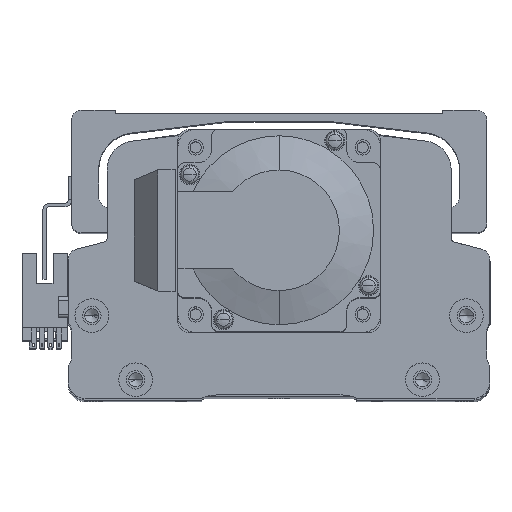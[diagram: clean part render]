
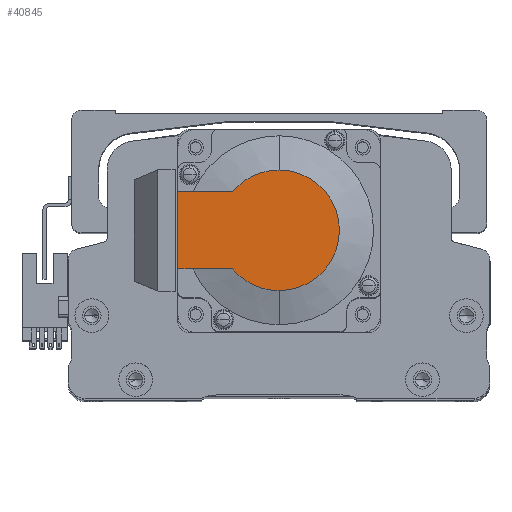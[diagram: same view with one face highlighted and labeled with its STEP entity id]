
A CAD part, top view. The second image highlights one B-rep face of the part: STEP entity #40845.
In plain terms, the highlighted planar face has unit normal (0, 0, 1) as drawn and (-1, 0, 0) by its records, which use the part's own axes.
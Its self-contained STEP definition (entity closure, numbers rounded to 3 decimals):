
#1666 = ORIENTED_EDGE ( 'NONE', *, *, #15408, .T. ) ;
#1883 = DIRECTION ( 'NONE',  ( 0., 0., -1. ) ) ;
#3121 = FACE_OUTER_BOUND ( 'NONE', #21239, .T. ) ;
#4443 = DIRECTION ( 'NONE',  ( -1., 0., 0. ) ) ;
#4469 = AXIS2_PLACEMENT_3D ( 'NONE', #29182, #4443, #33311 ) ;
#6772 = ORIENTED_EDGE ( 'NONE', *, *, #22242, .F. ) ;
#7822 = CARTESIAN_POINT ( 'NONE',  ( -118.5, 0., 0. ) ) ;
#8183 = EDGE_CURVE ( 'NONE', #45705, #31785, #19655, .T. ) ;
#9536 = CARTESIAN_POINT ( 'NONE',  ( -118.5, 13.735, 11.45 ) ) ;
#10730 = ORIENTED_EDGE ( 'NONE', *, *, #24811, .T. ) ;
#11619 = AXIS2_PLACEMENT_3D ( 'NONE', #7822, #36649, #11991 ) ;
#11991 = DIRECTION ( 'NONE',  ( 0., 0., -1. ) ) ;
#12180 = CARTESIAN_POINT ( 'NONE',  ( -118.5, 30., -11.45 ) ) ;
#12434 = CARTESIAN_POINT ( 'NONE',  ( -118.5, 30., 25. ) ) ;
#13423 = ORIENTED_EDGE ( 'NONE', *, *, #52760, .T. ) ;
#13528 = CARTESIAN_POINT ( 'NONE',  ( -118.5, 13.735, -11.45 ) ) ;
#13822 = CARTESIAN_POINT ( 'NONE',  ( -118.5, 30., 11.45 ) ) ;
#14484 = CARTESIAN_POINT ( 'NONE',  ( -118.5, 0., 0. ) ) ;
#15408 = EDGE_CURVE ( 'NONE', #19360, #45705, #50749, .T. ) ;
#15792 = VECTOR ( 'NONE', #37080, 1000. ) ;
#16846 = CIRCLE ( 'NONE', #11619, 17.881 ) ;
#17221 = VERTEX_POINT ( 'NONE', #12180 ) ;
#18647 = DIRECTION ( 'NONE',  ( 0., 0., -1. ) ) ;
#18752 = AXIS2_PLACEMENT_3D ( 'NONE', #51184, #26546, #1883 ) ;
#19360 = VERTEX_POINT ( 'NONE', #37151 ) ;
#19655 = CIRCLE ( 'NONE', #52163, 17.881 ) ;
#20697 = PLANE ( 'NONE',  #4469 ) ;
#21239 = EDGE_LOOP ( 'NONE', ( #10730, #13423, #1666, #26617, #40459, #6772 ) ) ;
#22242 = EDGE_CURVE ( 'NONE', #17221, #29449, #37717, .T. ) ;
#22919 = DIRECTION ( 'NONE',  ( 0., -1., 0. ) ) ;
#23190 = EDGE_CURVE ( 'NONE', #29449, #31785, #45919, .T. ) ;
#24017 = VECTOR ( 'NONE', #22919, 1000. ) ;
#24811 = EDGE_CURVE ( 'NONE', #17221, #36669, #42273, .T. ) ;
#26546 = DIRECTION ( 'NONE',  ( -1., 0., 0. ) ) ;
#26617 = ORIENTED_EDGE ( 'NONE', *, *, #8183, .T. ) ;
#29182 = CARTESIAN_POINT ( 'NONE',  ( -118.5, -8.941, 0. ) ) ;
#29449 = VERTEX_POINT ( 'NONE', #13822 ) ;
#31360 = VECTOR ( 'NONE', #38281, 1000. ) ;
#31785 = VERTEX_POINT ( 'NONE', #9536 ) ;
#33311 = DIRECTION ( 'NONE',  ( 0., 0., 1. ) ) ;
#36649 = DIRECTION ( 'NONE',  ( -1., 0., 0. ) ) ;
#36669 = VERTEX_POINT ( 'NONE', #13528 ) ;
#37080 = DIRECTION ( 'NONE',  ( 0., 0., 1. ) ) ;
#37151 = CARTESIAN_POINT ( 'NONE',  ( -118.5, 0., -17.881 ) ) ;
#37562 = CARTESIAN_POINT ( 'NONE',  ( -118.5, -8.941, -11.45 ) ) ;
#37717 = LINE ( 'NONE', #12434, #15792 ) ;
#38281 = DIRECTION ( 'NONE',  ( 0., -1., 0. ) ) ;
#39349 = CARTESIAN_POINT ( 'NONE',  ( -118.5, 0., 11.45 ) ) ;
#40459 = ORIENTED_EDGE ( 'NONE', *, *, #23190, .F. ) ;
#40845 = ADVANCED_FACE ( 'NONE', ( #3121 ), #20697, .T. ) ;
#42273 = LINE ( 'NONE', #37562, #31360 ) ;
#43309 = DIRECTION ( 'NONE',  ( -1., 0., 0. ) ) ;
#45705 = VERTEX_POINT ( 'NONE', #53217 ) ;
#45919 = LINE ( 'NONE', #39349, #24017 ) ;
#50749 = CIRCLE ( 'NONE', #18752, 17.881 ) ;
#51184 = CARTESIAN_POINT ( 'NONE',  ( -118.5, 0., 0. ) ) ;
#52163 = AXIS2_PLACEMENT_3D ( 'NONE', #14484, #43309, #18647 ) ;
#52760 = EDGE_CURVE ( 'NONE', #36669, #19360, #16846, .T. ) ;
#53217 = CARTESIAN_POINT ( 'NONE',  ( -118.5, 0., 17.881 ) ) ;
